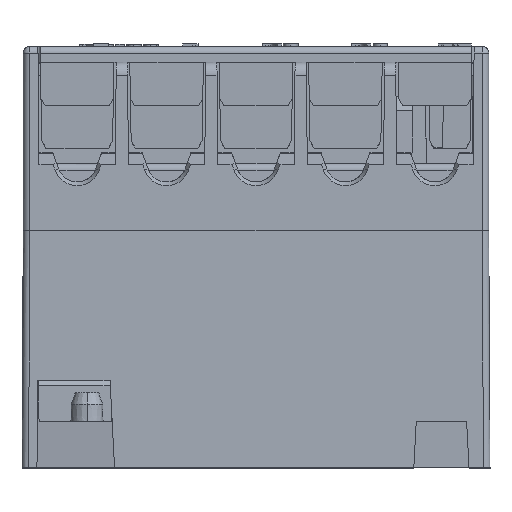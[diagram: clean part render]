
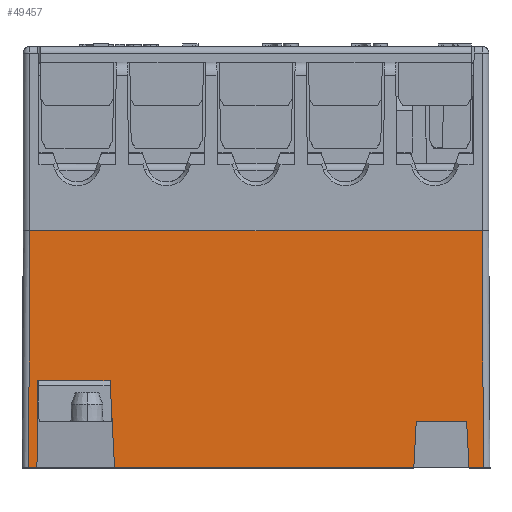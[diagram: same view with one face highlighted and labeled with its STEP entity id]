
A CAD part, top view. The second image highlights one B-rep face of the part: STEP entity #49457.
In plain terms, the highlighted planar face has unit normal (0, 0.005, 1).
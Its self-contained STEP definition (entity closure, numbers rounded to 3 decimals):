
#187 = EDGE_CURVE ( 'NONE', #47323, #55147, #70592, .T. ) ;
#1753 = CARTESIAN_POINT ( 'NONE',  ( 17.199, 18.183, 16.499 ) ) ;
#3091 = CARTESIAN_POINT ( 'NONE',  ( 0., 0., 16.594 ) ) ;
#3412 = VECTOR ( 'NONE', #36109, 1000. ) ;
#4196 = ORIENTED_EDGE ( 'NONE', *, *, #4211, .T. ) ;
#4211 = EDGE_CURVE ( 'NONE', #37982, #68155, #82487, .T. ) ;
#4608 = CARTESIAN_POINT ( 'NONE',  ( -11.714, 18.314, 16.498 ) ) ;
#6406 = ORIENTED_EDGE ( 'NONE', *, *, #27466, .T. ) ;
#8323 = DIRECTION ( 'NONE',  ( -0.005, 1., -0.005 ) ) ;
#9674 = DIRECTION ( 'NONE',  ( 1., 0., 0. ) ) ;
#9836 = PLANE ( 'NONE',  #84587 ) ;
#9843 = ORIENTED_EDGE ( 'NONE', *, *, #29750, .T. ) ;
#9949 = VERTEX_POINT ( 'NONE', #37985 ) ;
#10117 = CARTESIAN_POINT ( 'NONE',  ( -11.1, 6.6, 16.56 ) ) ;
#11175 = DIRECTION ( 'NONE',  ( -0.052, 0.999, -0.005 ) ) ;
#11945 = EDGE_CURVE ( 'NONE', #76485, #26003, #48858, .T. ) ;
#13695 = LINE ( 'NONE', #4608, #29031 ) ;
#14277 = LINE ( 'NONE', #47846, #64333 ) ;
#14312 = VECTOR ( 'NONE', #64524, 1000. ) ;
#14503 = CARTESIAN_POINT ( 'NONE',  ( 16.2, 0., 16.594 ) ) ;
#14706 = DIRECTION ( 'NONE',  ( 1., 0., 0. ) ) ;
#14968 = EDGE_CURVE ( 'NONE', #39682, #26003, #22862, .T. ) ;
#18825 = CARTESIAN_POINT ( 'NONE',  ( -17.7, 18., 16.5 ) ) ;
#20732 = CARTESIAN_POINT ( 'NONE',  ( 0., 3.5, 16.576 ) ) ;
#21066 = DIRECTION ( 'NONE',  ( -0.005, -1., 0.005 ) ) ;
#21968 = CARTESIAN_POINT ( 'NONE',  ( 17.294, 0., 16.594 ) ) ;
#22301 = CARTESIAN_POINT ( 'NONE',  ( 12.183, 3.5, 16.576 ) ) ;
#22862 = LINE ( 'NONE', #43217, #3412 ) ;
#22967 = DIRECTION ( 'NONE',  ( 0., -1., 0.005 ) ) ;
#23391 = VERTEX_POINT ( 'NONE', #21968 ) ;
#24922 = EDGE_CURVE ( 'NONE', #23391, #55147, #84002, .T. ) ;
#25276 = LINE ( 'NONE', #20732, #36563 ) ;
#26003 = VERTEX_POINT ( 'NONE', #50763 ) ;
#27253 = DIRECTION ( 'NONE',  ( 1., 0., 0. ) ) ;
#27466 = EDGE_CURVE ( 'NONE', #83407, #44984, #69720, .T. ) ;
#29031 = VECTOR ( 'NONE', #11175, 1000. ) ;
#29750 = EDGE_CURVE ( 'NONE', #9949, #76485, #14277, .T. ) ;
#32682 = DIRECTION ( 'NONE',  ( -0.052, -0.999, 0.005 ) ) ;
#36109 = DIRECTION ( 'NONE',  ( -1., 0., 0. ) ) ;
#36563 = VECTOR ( 'NONE', #27253, 1000. ) ;
#37982 = VERTEX_POINT ( 'NONE', #67782 ) ;
#37985 = CARTESIAN_POINT ( 'NONE',  ( -17.294, 0., 16.594 ) ) ;
#38500 = ORIENTED_EDGE ( 'NONE', *, *, #187, .F. ) ;
#38681 = ORIENTED_EDGE ( 'NONE', *, *, #14968, .F. ) ;
#39490 = EDGE_CURVE ( 'NONE', #49847, #37982, #25276, .T. ) ;
#39682 = VERTEX_POINT ( 'NONE', #10117 ) ;
#42206 = LINE ( 'NONE', #53624, #57463 ) ;
#43217 = CARTESIAN_POINT ( 'NONE',  ( -11.1, 6.6, 16.56 ) ) ;
#44088 = VECTOR ( 'NONE', #32682, 1000. ) ;
#44245 = EDGE_CURVE ( 'NONE', #47323, #9949, #42206, .T. ) ;
#44984 = VERTEX_POINT ( 'NONE', #77540 ) ;
#45529 = CARTESIAN_POINT ( 'NONE',  ( 12.005, 0.087, 16.594 ) ) ;
#46126 = EDGE_LOOP ( 'NONE', ( #38500, #84116, #9843, #69012, #38681, #79160, #6406, #81493, #54313, #4196, #62475, #57270 ) ) ;
#46941 = CARTESIAN_POINT ( 'NONE',  ( -16.658, 0., 16.594 ) ) ;
#47323 = VERTEX_POINT ( 'NONE', #81279 ) ;
#47846 = CARTESIAN_POINT ( 'NONE',  ( 0., 0., 16.594 ) ) ;
#48858 = LINE ( 'NONE', #57340, #64129 ) ;
#49457 = ADVANCED_FACE ( 'NONE', ( #80894 ), #9836, .T. ) ;
#49847 = VERTEX_POINT ( 'NONE', #22301 ) ;
#50763 = CARTESIAN_POINT ( 'NONE',  ( -16.6, 6.6, 16.56 ) ) ;
#53624 = CARTESIAN_POINT ( 'NONE',  ( -17.2, 17.997, 16.5 ) ) ;
#53824 = CARTESIAN_POINT ( 'NONE',  ( 0., 0., 16.594 ) ) ;
#54313 = ORIENTED_EDGE ( 'NONE', *, *, #39490, .T. ) ;
#54424 = DIRECTION ( 'NONE',  ( 1., 0., 0. ) ) ;
#55147 = VERTEX_POINT ( 'NONE', #57400 ) ;
#55217 = CARTESIAN_POINT ( 'NONE',  ( -10.754, 0., 16.594 ) ) ;
#55530 = CARTESIAN_POINT ( 'NONE',  ( -17.7, 18., 16.5 ) ) ;
#56575 = DIRECTION ( 'NONE',  ( 0.052, -0.999, 0.005 ) ) ;
#56969 = EDGE_CURVE ( 'NONE', #68155, #23391, #78103, .T. ) ;
#57270 = ORIENTED_EDGE ( 'NONE', *, *, #24922, .T. ) ;
#57340 = CARTESIAN_POINT ( 'NONE',  ( -16.501, 17.99, 16.5 ) ) ;
#57400 = CARTESIAN_POINT ( 'NONE',  ( 17.2, 18., 16.5 ) ) ;
#57463 = VECTOR ( 'NONE', #21066, 1000. ) ;
#58357 = EDGE_CURVE ( 'NONE', #49847, #44984, #81025, .T. ) ;
#62114 = DIRECTION ( 'NONE',  ( 0., 0.005, 1. ) ) ;
#62475 = ORIENTED_EDGE ( 'NONE', *, *, #56969, .T. ) ;
#63907 = DIRECTION ( 'NONE',  ( 0.009, 1., -0.005 ) ) ;
#64129 = VECTOR ( 'NONE', #63907, 1000. ) ;
#64333 = VECTOR ( 'NONE', #54424, 1000. ) ;
#64524 = DIRECTION ( 'NONE',  ( 1., 0., 0. ) ) ;
#66484 = VECTOR ( 'NONE', #8323, 1000. ) ;
#67782 = CARTESIAN_POINT ( 'NONE',  ( 16.017, 3.5, 16.576 ) ) ;
#68155 = VERTEX_POINT ( 'NONE', #14503 ) ;
#69012 = ORIENTED_EDGE ( 'NONE', *, *, #11945, .T. ) ;
#69720 = LINE ( 'NONE', #53824, #83084 ) ;
#70592 = LINE ( 'NONE', #18825, #14312 ) ;
#76073 = VECTOR ( 'NONE', #9674, 1000. ) ;
#76485 = VERTEX_POINT ( 'NONE', #46941 ) ;
#77540 = CARTESIAN_POINT ( 'NONE',  ( 12., 0., 16.594 ) ) ;
#78103 = LINE ( 'NONE', #3091, #76073 ) ;
#79160 = ORIENTED_EDGE ( 'NONE', *, *, #81045, .F. ) ;
#80423 = VECTOR ( 'NONE', #56575, 1000. ) ;
#80894 = FACE_OUTER_BOUND ( 'NONE', #46126, .T. ) ;
#81025 = LINE ( 'NONE', #45529, #44088 ) ;
#81045 = EDGE_CURVE ( 'NONE', #83407, #39682, #13695, .T. ) ;
#81279 = CARTESIAN_POINT ( 'NONE',  ( -17.2, 18., 16.5 ) ) ;
#81493 = ORIENTED_EDGE ( 'NONE', *, *, #58357, .F. ) ;
#82487 = LINE ( 'NONE', #82724, #80423 ) ;
#82724 = CARTESIAN_POINT ( 'NONE',  ( 15.166, 19.722, 16.491 ) ) ;
#83084 = VECTOR ( 'NONE', #14706, 1000. ) ;
#83407 = VERTEX_POINT ( 'NONE', #55217 ) ;
#84002 = LINE ( 'NONE', #1753, #66484 ) ;
#84116 = ORIENTED_EDGE ( 'NONE', *, *, #44245, .T. ) ;
#84587 = AXIS2_PLACEMENT_3D ( 'NONE', #55530, #62114, #22967 ) ;
